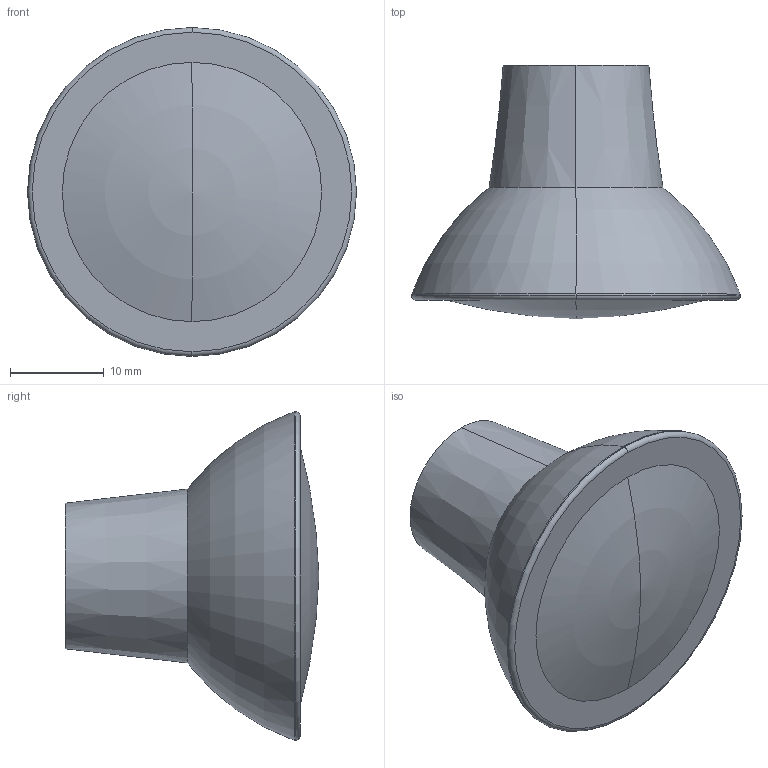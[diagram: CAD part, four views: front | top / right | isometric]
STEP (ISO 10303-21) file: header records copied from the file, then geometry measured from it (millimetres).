
FILE_DESCRIPTION( ( '' ), '1' );
FILE_NAME( 'C:/Documents and Settings/Nikhil/Desktop/Nik/Done/9112599.stp', '2013-10-23T11:53:45', ( '' ), ( '' ), ' ', ' ', ' ' );
FILE_SCHEMA( ( 'automotive_design' ) );
Length unit declared in the file: millimetre
Products named in the file (1): 1
Bounding box: 35 x 27 x 35 mm (x, y, z)
Volume: 11358.6 mm3; surface area: 3275.1 mm2
Topology: 1 solids, 1 shells, 15 faces, 30 edges, 17 vertices
Faces by surface type: torus 8, plane 3, cone 2, cylinder 2
Entity records: 755 total; most frequent: DIRECTION 84, STYLED_ITEM 61, PRESENTATION_STYLE_ASSIGNMENT 61, CARTESIAN_POINT 61, COLOUR_RGB 61, ORIENTED_EDGE 56, AXIS2_PLACEMENT_3D 40, EDGE_CURVE 28
